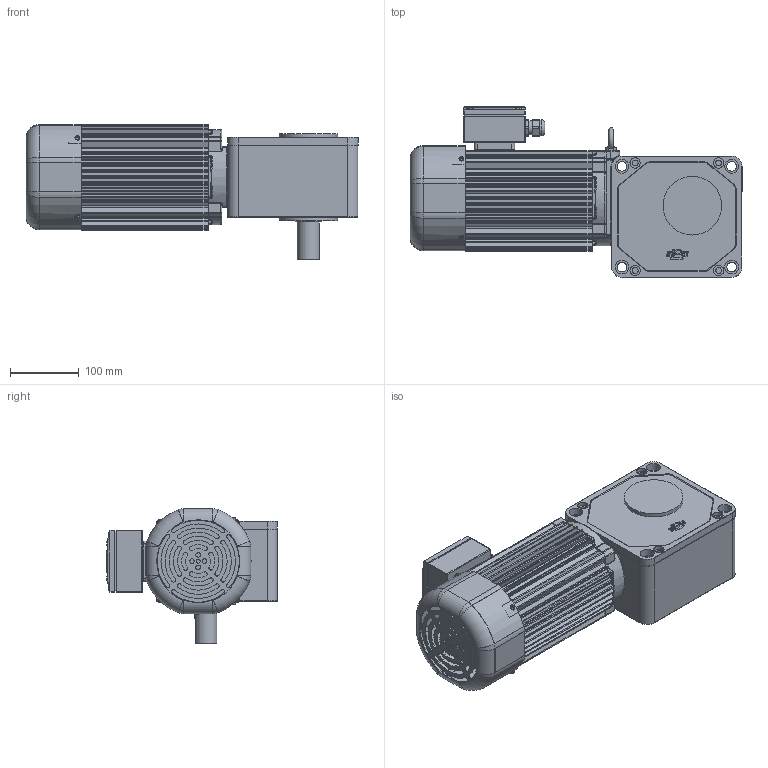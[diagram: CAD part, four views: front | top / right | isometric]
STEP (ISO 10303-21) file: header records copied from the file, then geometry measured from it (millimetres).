
FILE_DESCRIPTION(/* description */ (''),/* implementation_level */ '2;1');
FILE_NAME(/* name */ 'Z:\동력 3D 파일\PCS32R_0.75kW_Brake_3D.stp',/* time_stamp */ '2021-11-09T11:54:06+09:00',/* author */ ('jaebok'),/* organization */ (''),/* preprocessor_version */ 'ST-DEVELOPER v18.1',/* originating_system */ 'Autodesk Inventor 2022',/* authorisation */ '');
FILE_SCHEMA (('AUTOMOTIVE_DESIGN { 1 0 10303 214 3 1 1 }'));
Products named in the file (1): 부품64
Bounding box: 481.5 x 248 x 197 mm (x, y, z)
Volume: 3318635.7 mm3; surface area: 797482.8 mm2
Topology: 1 solids, 26 shells, 1990 faces, 5204 edges, 3280 vertices
Faces by surface type: plane 916, cylinder 767, torus 125, bspline 114, cone 52, sphere 16
Full cylindrical faces by diameter (mm): 3.25 x1, 3.6 x4, 4 x18, 5 x13, 6 x1, 6.647 x2, 7 x13, 8 x5, 8.5 x4, 10 x1, 12.5 x1, 14 x4, 15 x5, 20 x14, 20.6 x1, 21 x1, 23.6 x1, 25 x1, 32 x1, 40 x2, 54.5 x1, 68 x1, 72 x2, 85 x2, 119 x1, 122 x1, 125 x1, 128 x1, 131 x4
Entity records: 67155 total; most frequent: CARTESIAN_POINT 15656, DIRECTION 10750, ORIENTED_EDGE 10344, EDGE_CURVE 5172, AXIS2_PLACEMENT_3D 4029, VERTEX_POINT 3276, LINE 2692, VECTOR 2692
